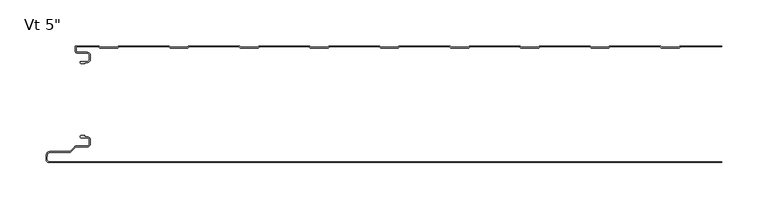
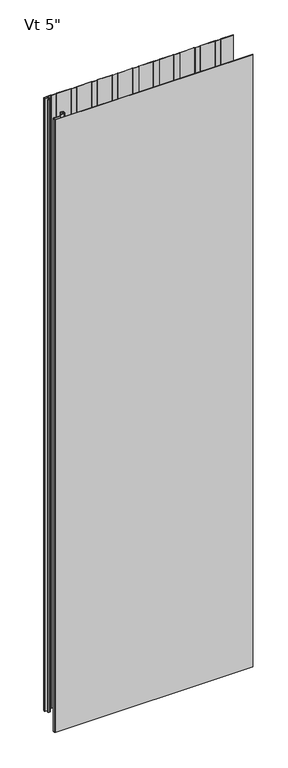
"""IFC4 building model written with IfcOpenShell, lengths in millimetres: plate geometry."""

from ifc_helpers import new_model, si_unit, point, frame, frame_2d, origin, origin_with_axes, place, context, project, spatial, polyline, circle_curve, trimmed, segment, composite_curve, outline, extrude, source, transform, mapped, element, save
from ifc_brep_helpers import plane_surface, cylinder_surface, revolved_surface, advanced_brep


def plate_cdec7c63(model_context):
    return source(origin(), model_context, "Body", "SolidModel", [
        advanced_brep(
        [(-346.968691, -17.0015202, 2400.0), (-347.9686883, -18.0015234, 2400.0), (-346.968691, -19.0015147, 2400.0), (-342.9684874, -19.0015147, 2400.0), (-342.9684874, -18.0015202, 2400.0), (-340.2762776, -18.0015202, 2400.0), (-336.9762819, -14.7015245, 2400.0), (-336.9762819, -10.3015333, 2400.0), (-340.2762774, -7.0015378, 2400.0), (-350.6962563, -7.0015378, 2400.0), (-352.4662505, -5.2315436, 2400.0), (-352.4662505, -0.9999959, 2400.0), (-327.9659738, -0.9999959, 2400.0), (-326.5803312, -2.200235, 2400.0), (-307.2051649, -2.200235, 2400.0), (-305.819532, -1.0000043, 2400.0), (-251.7661166, -1.0000043, 2400.0), (-250.3804836, -2.200235, 2400.0), (-231.0053173, -2.200235, 2400.0), (-229.6196844, -1.0000043, 2400.0), (-175.566269, -1.0000043, 2400.0), (-174.180636, -2.200235, 2400.0), (-154.8054697, -2.200235, 2400.0), (-153.4198368, -1.0000043, 2400.0), (-99.3664214, -1.0000043, 2400.0), (-97.9807884, -2.200235, 2400.0), (-78.6056221, -2.200235, 2400.0), (-77.2199892, -1.0000043, 2400.0), (-23.1665738, -1.0000043, 2400.0), (-21.7809408, -2.200235, 2400.0), (-2.4057745, -2.200235, 2400.0), (-1.0201416, -1.0000043, 2400.0), (53.0332738, -1.0000043, 2400.0), (54.4189068, -2.200235, 2400.0), (73.7940731, -2.200235, 2400.0), (75.179706, -1.0000043, 2400.0), (129.2331214, -1.0000043, 2400.0), (130.6187544, -2.200235, 2400.0), (149.9939207, -2.200235, 2400.0), (151.3795536, -1.0000043, 2400.0), (205.432969, -1.0000043, 2400.0), (206.818602, -2.200235, 2400.0), (226.1937683, -2.200235, 2400.0), (227.5794012, -1.0000043, 2400.0), (281.6328166, -1.0000043, 2400.0), (283.0184496, -2.200235, 2400.0), (302.3936159, -2.200235, 2400.0), (303.7792488, -1.0000043, 2400.0), (348.9999998, -1.0000043, 2400.0), (348.9999998, -4.3e-06, 2400.0), (303.9284, -4.3e-06, 2400.0), (303.0117831, -0.3417928, 2400.0), (302.0207355, -1.200235, 2400.0), (283.39133, -1.200235, 2400.0), (282.4002824, -0.3417928, 2400.0), (281.4836655, -4.3e-06, 2400.0), (227.7285524, -4.3e-06, 2400.0), (226.8119355, -0.3417928, 2400.0), (225.8208879, -1.200235, 2400.0), (207.1914824, -1.200235, 2400.0), (206.2004348, -0.3417928, 2400.0), (205.2838179, -4.3e-06, 2400.0), (151.5287048, -4.3e-06, 2400.0), (150.6120879, -0.3417928, 2400.0), (149.6210403, -1.200235, 2400.0), (130.9916348, -1.200235, 2400.0), (130.0005872, -0.3417928, 2400.0), (129.0839703, -4.3e-06, 2400.0), (75.3288572, -4.3e-06, 2400.0), (74.4122403, -0.3417928, 2400.0), (73.4211927, -1.200235, 2400.0), (54.7917872, -1.200235, 2400.0), (53.8007396, -0.3417928, 2400.0), (52.8841227, -4.3e-06, 2400.0), (-0.8709904, -4.3e-06, 2400.0), (-1.7876073, -0.3417928, 2400.0), (-2.7786549, -1.200235, 2400.0), (-21.4080604, -1.200235, 2400.0), (-22.399108, -0.3417928, 2400.0), (-23.3157249, -4.3e-06, 2400.0), (-77.070838, -4.3e-06, 2400.0), (-77.9874549, -0.3417928, 2400.0), (-78.9785025, -1.200235, 2400.0), (-97.607908, -1.200235, 2400.0), (-98.5989556, -0.3417928, 2400.0), (-99.5155725, -4.3e-06, 2400.0), (-153.2706856, -4.3e-06, 2400.0), (-154.1873025, -0.3417928, 2400.0), (-155.1783501, -1.200235, 2400.0), (-173.8077556, -1.200235, 2400.0), (-174.7988032, -0.3417928, 2400.0), (-175.7154201, -4.3e-06, 2400.0), (-229.4705332, -4.3e-06, 2400.0), (-230.3871501, -0.3417928, 2400.0), (-231.3781977, -1.200235, 2400.0), (-250.0076032, -1.200235, 2400.0), (-250.9986508, -0.3417928, 2400.0), (-251.9152677, -4.3e-06, 2400.0), (-305.6703808, -4.3e-06, 2400.0), (-306.5869977, -0.3417928, 2400.0), (-307.5780453, -1.200235, 2400.0), (-326.2074508, -1.200235, 2400.0), (-327.1984984, -0.3417928, 2400.0), (-328.1152067, -4.3e-06, 2400.0), (-352.0662543, 4.1e-06, 2400.0), (-353.4662505, -1.3999921, 2400.0), (-353.4662505, -5.2315436, 2400.0), (-350.6962563, -8.0015378, 2400.0), (-340.2762774, -8.0015378, 2400.0), (-337.9762819, -10.3015333, 2400.0), (-337.9762819, -14.7015245, 2400.0), (-340.2762776, -17.0015202, 2400.0), (-346.968691, -17.0015202, 0.0), (-340.2762776, -17.0015202, 0.0), (-337.9762819, -14.7015245, 0.0), (-337.9762819, -10.3015333, 0.0), (-340.2762774, -8.0015378, 0.0), (-350.6962563, -8.0015378, 0.0), (-353.4662505, -5.2315436, 0.0), (-353.4662505, -1.3999921, 0.0), (-352.0662543, 4.1e-06, 0.0), (-328.1151153, 4.1e-06, 0.0), (-327.1984984, -0.3417928, 0.0), (-326.2074508, -1.200235, 0.0), (-307.5780453, -1.200235, 0.0), (-306.5869977, -0.3417928, 0.0), (-305.6703808, -4.3e-06, 0.0), (-251.9152677, -4.3e-06, 0.0), (-250.9986508, -0.3417928, 0.0), (-250.0076032, -1.200235, 0.0), (-231.3781977, -1.200235, 0.0), (-230.3871501, -0.3417928, 0.0), (-229.4705332, -4.3e-06, 0.0), (-175.7154201, -4.3e-06, 0.0), (-174.7988032, -0.3417928, 0.0), (-173.8077556, -1.200235, 0.0), (-155.1783501, -1.200235, 0.0), (-154.1873025, -0.3417928, 0.0), (-153.2706856, -4.3e-06, 0.0), (-99.5155725, -4.3e-06, 0.0), (-98.5989556, -0.3417928, 0.0), (-97.607908, -1.200235, 0.0), (-78.9785025, -1.200235, 0.0), (-77.9874549, -0.3417928, 0.0), (-77.070838, -4.3e-06, 0.0), (-23.3157249, -4.3e-06, 0.0), (-22.399108, -0.3417928, 0.0), (-21.4080604, -1.200235, 0.0), (-2.7786549, -1.200235, 0.0), (-1.7876073, -0.3417928, 0.0), (-0.8709904, -4.3e-06, 0.0), (52.8841227, -4.3e-06, 0.0), (53.8007396, -0.3417928, 0.0), (54.7917872, -1.200235, 0.0), (73.4211927, -1.200235, 0.0), (74.4122403, -0.3417928, 0.0), (75.3288572, -4.3e-06, 0.0), (129.0839703, -4.3e-06, 0.0), (130.0005872, -0.3417928, 0.0), (130.9916348, -1.200235, 0.0), (149.6210403, -1.200235, 0.0), (150.6120879, -0.3417928, 0.0), (151.5287048, -4.3e-06, 0.0), (205.2838179, -4.3e-06, 0.0), (206.2004348, -0.3417928, 0.0), (207.1914824, -1.200235, 0.0), (225.8208879, -1.200235, 0.0), (226.8119355, -0.3417928, 0.0), (227.7285524, -4.3e-06, 0.0), (281.4836655, -4.3e-06, 0.0), (282.4002824, -0.3417928, 0.0), (283.39133, -1.200235, 0.0), (302.0207355, -1.200235, 0.0), (303.0117831, -0.3417928, 0.0), (303.9284, -4.3e-06, 0.0), (348.9999998, -4.3e-06, 0.0), (348.9999998, -1.0000043, 0.0), (303.7792488, -1.0000043, 0.0), (302.3936159, -2.200235, 0.0), (283.0184496, -2.200235, 0.0), (281.6328166, -1.0000043, 0.0), (227.5794012, -1.0000043, 0.0), (226.1937683, -2.200235, 0.0), (206.818602, -2.200235, 0.0), (205.432969, -1.0000043, 0.0), (151.3795536, -1.0000043, 0.0), (149.9939207, -2.200235, 0.0), (130.6187544, -2.200235, 0.0), (129.2331214, -1.0000043, 0.0), (75.179706, -1.0000043, 0.0), (73.7940731, -2.200235, 0.0), (54.4189068, -2.200235, 0.0), (53.0332738, -1.0000043, 0.0), (-1.0201416, -1.0000043, 0.0), (-2.4057745, -2.200235, 0.0), (-21.7809408, -2.200235, 0.0), (-23.1665738, -1.0000043, 0.0), (-77.2199892, -1.0000043, 0.0), (-78.6056221, -2.200235, 0.0), (-97.9807884, -2.200235, 0.0), (-99.3664214, -1.0000043, 0.0), (-153.4198368, -1.0000043, 0.0), (-154.8054697, -2.200235, 0.0), (-174.180636, -2.200235, 0.0), (-175.566269, -1.0000043, 0.0), (-229.6196844, -1.0000043, 0.0), (-231.0053173, -2.200235, 0.0), (-250.3804836, -2.200235, 0.0), (-251.7661166, -1.0000043, 0.0), (-305.819532, -1.0000043, 0.0), (-307.2051649, -2.200235, 0.0), (-326.5803312, -2.200235, 0.0), (-327.9659738, -0.9999959, 0.0), (-352.4662505, -0.9999959, 0.0), (-352.4662505, -5.2315436, 0.0), (-350.6962563, -7.0015378, 0.0), (-340.2762774, -7.0015378, 0.0), (-336.9762819, -10.3015333, 0.0), (-336.9762819, -14.7015245, 0.0), (-340.2762776, -18.0015202, 0.0), (-342.9684874, -18.0015202, 0.0), (-342.9684874, -19.0015147, 0.0), (-346.968691, -19.0015147, 0.0), (-347.9686882, -18.0015235, 0.0)],
        [
            (0, 1, circle_curve(frame((-346.968691, -18.0015175, 2400.0), z_axis=(0.0, 0.0, 1.0), x_axis=(1.0, 0.0, 0.0)), 0.9999973)),
            (1, 2, circle_curve(frame((-346.968691, -18.0015175, 2400.0), z_axis=(0.0, 0.0, 1.0), x_axis=(1.0, 0.0, 0.0)), 0.9999972)),
            (2, 3),
            (3, 4),
            (4, 5),
            (5, 6, circle_curve(frame((-340.2762776, -14.7015245, 2400.0), z_axis=(0.0, 0.0, 1.0), x_axis=(1.0, 0.0, 0.0)), 3.2999957)),
            (6, 7),
            (7, 8, circle_curve(frame((-340.2762774, -10.3015333, 2400.0), z_axis=(0.0, 0.0, 1.0), x_axis=(1.0, 0.0, 0.0)), 3.2999955)),
            (8, 9),
            (9, 10, circle_curve(frame((-350.6962563, -5.2315436, 2400.0), z_axis=(0.0, 0.0, -1.0), x_axis=(1.0, 0.0, 0.0)), 1.7699942)),
            (10, 11),
            (11, 12),
            (12, 13),
            (13, 14),
            (14, 15),
            (15, 16),
            (16, 17),
            (17, 18),
            (18, 19),
            (19, 20),
            (20, 21),
            (21, 22),
            (22, 23),
            (23, 24),
            (24, 25),
            (25, 26),
            (26, 27),
            (27, 28),
            (28, 29),
            (29, 30),
            (30, 31),
            (31, 32),
            (32, 33),
            (33, 34),
            (34, 35),
            (35, 36),
            (36, 37),
            (37, 38),
            (38, 39),
            (39, 40),
            (40, 41),
            (41, 42),
            (42, 43),
            (43, 44),
            (44, 45),
            (45, 46),
            (46, 47),
            (47, 48),
            (48, 49),
            (49, 50),
            (50, 51, circle_curve(frame((303.9284, -1.4000015, 2400.0), z_axis=(0.0, 0.0, 1.0), x_axis=(1.0, 0.0, 0.0)), 1.3999972)),
            (51, 52),
            (52, 53),
            (53, 54),
            (54, 55, circle_curve(frame((281.4836655, -1.4000015, 2400.0), z_axis=(0.0, 0.0, 1.0), x_axis=(1.0, 0.0, 0.0)), 1.3999972)),
            (55, 56),
            (56, 57, circle_curve(frame((227.7285524, -1.4000015, 2400.0), z_axis=(0.0, 0.0, 1.0), x_axis=(1.0, 0.0, 0.0)), 1.3999972)),
            (57, 58),
            (58, 59),
            (59, 60),
            (60, 61, circle_curve(frame((205.2838179, -1.4000015, 2400.0), z_axis=(0.0, 0.0, 1.0), x_axis=(1.0, 0.0, 0.0)), 1.3999972)),
            (61, 62),
            (62, 63, circle_curve(frame((151.5287048, -1.4000015, 2400.0), z_axis=(0.0, 0.0, 1.0), x_axis=(1.0, 0.0, 0.0)), 1.3999972)),
            (63, 64),
            (64, 65),
            (65, 66),
            (66, 67, circle_curve(frame((129.0839703, -1.4000015, 2400.0), z_axis=(0.0, 0.0, 1.0), x_axis=(1.0, 0.0, 0.0)), 1.3999972)),
            (67, 68),
            (68, 69, circle_curve(frame((75.3288572, -1.4000015, 2400.0), z_axis=(0.0, 0.0, 1.0), x_axis=(1.0, 0.0, 0.0)), 1.3999972)),
            (69, 70),
            (70, 71),
            (71, 72),
            (72, 73, circle_curve(frame((52.8841227, -1.4000015, 2400.0), z_axis=(0.0, 0.0, 1.0), x_axis=(1.0, 0.0, 0.0)), 1.3999972)),
            (73, 74),
            (74, 75, circle_curve(frame((-0.8709904, -1.4000015, 2400.0), z_axis=(0.0, 0.0, 1.0), x_axis=(1.0, 0.0, 0.0)), 1.3999972)),
            (75, 76),
            (76, 77),
            (77, 78),
            (78, 79, circle_curve(frame((-23.3157249, -1.4000015, 2400.0), z_axis=(0.0, 0.0, 1.0), x_axis=(1.0, 0.0, 0.0)), 1.3999972)),
            (79, 80),
            (80, 81, circle_curve(frame((-77.070838, -1.4000015, 2400.0), z_axis=(0.0, 0.0, 1.0), x_axis=(1.0, 0.0, 0.0)), 1.3999972)),
            (81, 82),
            (82, 83),
            (83, 84),
            (84, 85, circle_curve(frame((-99.5155725, -1.4000015, 2400.0), z_axis=(0.0, 0.0, 1.0), x_axis=(1.0, 0.0, 0.0)), 1.3999972)),
            (85, 86),
            (86, 87, circle_curve(frame((-153.2706856, -1.4000015, 2400.0), z_axis=(0.0, 0.0, 1.0), x_axis=(1.0, 0.0, 0.0)), 1.3999972)),
            (87, 88),
            (88, 89),
            (89, 90),
            (90, 91, circle_curve(frame((-175.7154201, -1.4000015, 2400.0), z_axis=(0.0, 0.0, 1.0), x_axis=(1.0, 0.0, 0.0)), 1.3999972)),
            (91, 92),
            (92, 93, circle_curve(frame((-229.4705332, -1.4000015, 2400.0), z_axis=(0.0, 0.0, 1.0), x_axis=(1.0, 0.0, 0.0)), 1.3999972)),
            (93, 94),
            (94, 95),
            (95, 96),
            (96, 97, circle_curve(frame((-251.9152677, -1.4000015, 2400.0), z_axis=(0.0, 0.0, 1.0), x_axis=(1.0, 0.0, 0.0)), 1.3999972)),
            (97, 98),
            (98, 99, circle_curve(frame((-305.6703808, -1.4000015, 2400.0), z_axis=(0.0, 0.0, 1.0), x_axis=(1.0, 0.0, 0.0)), 1.3999972)),
            (99, 100),
            (100, 101),
            (101, 102),
            (102, 103, circle_curve(frame((-328.1151153, -1.4000015, 2400.0), z_axis=(0.0, 0.0, 1.0), x_axis=(1.0, 0.0, 0.0)), 1.3999972)),
            (103, 104),
            (104, 105, circle_curve(frame((-352.0662543, -1.3999921, 2400.0), z_axis=(0.0, 0.0, 1.0), x_axis=(1.0, 0.0, 0.0)), 1.3999962)),
            (105, 106),
            (106, 107, circle_curve(frame((-350.6962563, -5.2315436, 2400.0), z_axis=(0.0, 0.0, 1.0), x_axis=(1.0, 0.0, 0.0)), 2.7699942)),
            (107, 108),
            (108, 109, circle_curve(frame((-340.2762774, -10.3015333, 2400.0), z_axis=(0.0, 0.0, -1.0), x_axis=(1.0, 0.0, 0.0)), 2.2999955)),
            (109, 110),
            (110, 111, circle_curve(frame((-340.2762776, -14.7015245, 2400.0), z_axis=(0.0, 0.0, -1.0), x_axis=(1.0, 0.0, 0.0)), 2.2999957)),
            (111, 0),
            (112, 113),
            (113, 114, circle_curve(frame((-340.2762776, -14.7015245, 0.0), z_axis=(0.0, 0.0, 1.0), x_axis=(1.0, 0.0, 0.0)), 2.2999957)),
            (114, 115),
            (115, 116, circle_curve(frame((-340.2762774, -10.3015333, 0.0), z_axis=(0.0, 0.0, 1.0), x_axis=(1.0, 0.0, 0.0)), 2.2999955)),
            (116, 117),
            (117, 118, circle_curve(frame((-350.6962563, -5.2315436, 0.0), z_axis=(0.0, 0.0, -1.0), x_axis=(1.0, 0.0, 0.0)), 2.7699942)),
            (118, 119),
            (119, 120, circle_curve(frame((-352.0662543, -1.3999921, 0.0), z_axis=(0.0, 0.0, -1.0), x_axis=(1.0, 0.0, 0.0)), 1.3999962)),
            (120, 121),
            (121, 122, circle_curve(frame((-328.1151153, -1.4000015, 0.0), z_axis=(0.0, 0.0, -1.0), x_axis=(1.0, 0.0, 0.0)), 1.3999972)),
            (122, 123),
            (123, 124),
            (124, 125),
            (125, 126, circle_curve(frame((-305.6703808, -1.4000015, 0.0), z_axis=(0.0, 0.0, -1.0), x_axis=(1.0, 0.0, 0.0)), 1.3999972)),
            (126, 127),
            (127, 128, circle_curve(frame((-251.9152677, -1.4000015, 0.0), z_axis=(0.0, 0.0, -1.0), x_axis=(1.0, 0.0, 0.0)), 1.3999972)),
            (128, 129),
            (129, 130),
            (130, 131),
            (131, 132, circle_curve(frame((-229.4705332, -1.4000015, 0.0), z_axis=(0.0, 0.0, -1.0), x_axis=(1.0, 0.0, 0.0)), 1.3999972)),
            (132, 133),
            (133, 134, circle_curve(frame((-175.7154201, -1.4000015, 0.0), z_axis=(0.0, 0.0, -1.0), x_axis=(1.0, 0.0, 0.0)), 1.3999972)),
            (134, 135),
            (135, 136),
            (136, 137),
            (137, 138, circle_curve(frame((-153.2706856, -1.4000015, 0.0), z_axis=(0.0, 0.0, -1.0), x_axis=(1.0, 0.0, 0.0)), 1.3999972)),
            (138, 139),
            (139, 140, circle_curve(frame((-99.5155725, -1.4000015, 0.0), z_axis=(0.0, 0.0, -1.0), x_axis=(1.0, 0.0, 0.0)), 1.3999972)),
            (140, 141),
            (141, 142),
            (142, 143),
            (143, 144, circle_curve(frame((-77.070838, -1.4000015, 0.0), z_axis=(0.0, 0.0, -1.0), x_axis=(1.0, 0.0, 0.0)), 1.3999972)),
            (144, 145),
            (145, 146, circle_curve(frame((-23.3157249, -1.4000015, 0.0), z_axis=(0.0, 0.0, -1.0), x_axis=(1.0, 0.0, 0.0)), 1.3999972)),
            (146, 147),
            (147, 148),
            (148, 149),
            (149, 150, circle_curve(frame((-0.8709904, -1.4000015, 0.0), z_axis=(0.0, 0.0, -1.0), x_axis=(1.0, 0.0, 0.0)), 1.3999972)),
            (150, 151),
            (151, 152, circle_curve(frame((52.8841227, -1.4000015, 0.0), z_axis=(0.0, 0.0, -1.0), x_axis=(1.0, 0.0, 0.0)), 1.3999972)),
            (152, 153),
            (153, 154),
            (154, 155),
            (155, 156, circle_curve(frame((75.3288572, -1.4000015, 0.0), z_axis=(0.0, 0.0, -1.0), x_axis=(1.0, 0.0, 0.0)), 1.3999972)),
            (156, 157),
            (157, 158, circle_curve(frame((129.0839703, -1.4000015, 0.0), z_axis=(0.0, 0.0, -1.0), x_axis=(1.0, 0.0, 0.0)), 1.3999972)),
            (158, 159),
            (159, 160),
            (160, 161),
            (161, 162, circle_curve(frame((151.5287048, -1.4000015, 0.0), z_axis=(0.0, 0.0, -1.0), x_axis=(1.0, 0.0, 0.0)), 1.3999972)),
            (162, 163),
            (163, 164, circle_curve(frame((205.2838179, -1.4000015, 0.0), z_axis=(0.0, 0.0, -1.0), x_axis=(1.0, 0.0, 0.0)), 1.3999972)),
            (164, 165),
            (165, 166),
            (166, 167),
            (167, 168, circle_curve(frame((227.7285524, -1.4000015, 0.0), z_axis=(0.0, 0.0, -1.0), x_axis=(1.0, 0.0, 0.0)), 1.3999972)),
            (168, 169),
            (169, 170, circle_curve(frame((281.4836655, -1.4000015, 0.0), z_axis=(0.0, 0.0, -1.0), x_axis=(1.0, 0.0, 0.0)), 1.3999972)),
            (170, 171),
            (171, 172),
            (172, 173),
            (173, 174, circle_curve(frame((303.9284, -1.4000015, 0.0), z_axis=(0.0, 0.0, -1.0), x_axis=(1.0, 0.0, 0.0)), 1.3999972)),
            (174, 175),
            (175, 176),
            (176, 177),
            (177, 178),
            (178, 179),
            (179, 180),
            (180, 181),
            (181, 182),
            (182, 183),
            (183, 184),
            (184, 185),
            (185, 186),
            (186, 187),
            (187, 188),
            (188, 189),
            (189, 190),
            (190, 191),
            (191, 192),
            (192, 193),
            (193, 194),
            (194, 195),
            (195, 196),
            (196, 197),
            (197, 198),
            (198, 199),
            (199, 200),
            (200, 201),
            (201, 202),
            (202, 203),
            (203, 204),
            (204, 205),
            (205, 206),
            (206, 207),
            (207, 208),
            (208, 209),
            (209, 210),
            (210, 211),
            (211, 212),
            (212, 213),
            (213, 214),
            (214, 215, circle_curve(frame((-350.6962563, -5.2315436, 0.0), z_axis=(0.0, 0.0, 1.0), x_axis=(1.0, 0.0, 0.0)), 1.7699942)),
            (215, 216),
            (216, 217, circle_curve(frame((-340.2762774, -10.3015333, 0.0), z_axis=(0.0, 0.0, -1.0), x_axis=(1.0, 0.0, 0.0)), 3.2999955)),
            (217, 218),
            (218, 219, circle_curve(frame((-340.2762776, -14.7015245, 0.0), z_axis=(0.0, 0.0, -1.0), x_axis=(1.0, 0.0, 0.0)), 3.2999957)),
            (219, 220),
            (220, 221),
            (221, 222),
            (222, 223, circle_curve(frame((-346.968691, -18.0015175, 0.0), z_axis=(0.0, 0.0, -1.0), x_axis=(1.0, 0.0, 0.0)), 0.9999972)),
            (223, 112, circle_curve(frame((-346.968691, -18.0015175, 0.0), z_axis=(0.0, 0.0, -1.0), x_axis=(1.0, 0.0, 0.0)), 0.9999973)),
            (48, 176),
            (175, 49),
            (111, 113),
            (112, 0),
            (110, 114),
            (109, 115),
            (108, 116),
            (107, 117),
            (106, 118),
            (105, 119),
            (104, 120),
            (103, 121),
            (102, 122),
            (101, 123),
            (100, 124),
            (99, 125),
            (98, 126),
            (97, 127),
            (96, 128),
            (95, 129),
            (94, 130),
            (93, 131),
            (92, 132),
            (91, 133),
            (90, 134),
            (89, 135),
            (88, 136),
            (87, 137),
            (86, 138),
            (85, 139),
            (84, 140),
            (83, 141),
            (82, 142),
            (81, 143),
            (80, 144),
            (79, 145),
            (78, 146),
            (77, 147),
            (76, 148),
            (75, 149),
            (74, 150),
            (73, 151),
            (72, 152),
            (71, 153),
            (70, 154),
            (69, 155),
            (68, 156),
            (67, 157),
            (66, 158),
            (65, 159),
            (64, 160),
            (63, 161),
            (62, 162),
            (38, 186),
            (185, 39),
            (37, 187),
            (36, 188),
            (35, 189),
            (34, 190),
            (33, 191),
            (32, 192),
            (31, 193),
            (30, 194),
            (29, 195),
            (28, 196),
            (27, 197),
            (26, 198),
            (25, 199),
            (24, 200),
            (23, 201),
            (22, 202),
            (21, 203),
            (20, 204),
            (19, 205),
            (18, 206),
            (17, 207),
            (16, 208),
            (15, 209),
            (14, 210),
            (13, 211),
            (12, 212),
            (11, 213),
            (10, 214),
            (9, 215),
            (8, 216),
            (7, 217),
            (6, 218),
            (5, 219),
            (4, 220),
            (3, 221),
            (2, 222),
            (1, 223),
            (55, 169),
            (168, 56),
            (54, 170),
            (53, 171),
            (52, 172),
            (51, 173),
            (50, 174),
            (43, 181),
            (180, 44),
            (42, 182),
            (41, 183),
            (40, 184),
            (61, 163),
            (60, 164),
            (59, 165),
            (58, 166),
            (57, 167),
            (47, 177),
            (46, 178),
            (45, 179),
        ],
        [
            plane_surface(frame((32.0000002, -4.3e-06, 2400.0), z_axis=(0.0, 0.0, 1.0), x_axis=(0.0, 1.0, 0.0))),
            plane_surface(frame((32.0000002, -4.3e-06, 0.0), z_axis=(0.0, 0.0, -1.0), x_axis=(0.0, 1.0, 0.0))),
            plane_surface(frame((348.9999998, -137.0000043, 2400.0), z_axis=(1.0, 0.0, 0.0), x_axis=(0.0, 0.0, -1.0))),
            plane_surface(frame((-346.968691, -17.0015202, 2400.0), z_axis=(0.0, 1.0, 0.0), x_axis=(0.0, 0.0, -1.0))),
            revolved_surface(polyline([(-337.9762819, -14.7015245, 0.0), (-337.9762819, -14.7015245, 2400.0)]), (-340.2762776, -14.7015245, 2400.0), (0.0, 0.0, -1.0)),
            plane_surface(frame((-337.9762819, -14.7015245, 2400.0), z_axis=(-1.0, 0.0, 0.0), x_axis=(0.0, 0.0, -1.0))),
            revolved_surface(polyline([(-337.9762819, -10.3015333, 0.0), (-337.9762819, -10.3015333, 2400.0)]), (-340.2762774, -10.3015333, 2400.0), (0.0, 0.0, -1.0)),
            plane_surface(frame((-340.2762774, -8.0015378, 2400.0), z_axis=(0.0, -1.0, 0.0), x_axis=(0.0, 0.0, -1.0))),
            cylinder_surface(frame((-350.6962563, -5.2315436, 2400.0), z_axis=(0.0, 0.0, 1.0), x_axis=(1.0, 0.0, 0.0)), 2.7699942),
            plane_surface(frame((-353.4662505, -5.2315436, 2400.0), z_axis=(-1.0, 0.0, 0.0), x_axis=(0.0, 0.0, -1.0))),
            cylinder_surface(frame((-352.0662543, -1.3999921, 2400.0), z_axis=(0.0, 0.0, 1.0), x_axis=(1.0, 0.0, 0.0)), 1.3999962),
            plane_surface(frame((-352.0662543, 4.1e-06, 2400.0), z_axis=(0.0, 1.0, 0.0), x_axis=(0.0, 0.0, -1.0))),
            cylinder_surface(frame((-328.1151153, -1.4000015, 2400.0), z_axis=(0.0, 0.0, 1.0), x_axis=(1.0, 0.0, 0.0)), 1.3999972),
            plane_surface(frame((-327.1984984, -0.3417928, 2400.0), z_axis=(0.6547276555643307, 0.7558648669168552, 0.0), x_axis=(0.0, 0.0, -1.0))),
            plane_surface(frame((-316.8927481, -1.200235, 2400.0), z_axis=(0.0, 1.0, 0.0), x_axis=(0.0, 0.0, -1.0))),
            plane_surface(frame((-307.5780453, -1.200235, 2400.0), z_axis=(-0.6547276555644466, 0.7558648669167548, 0.0), x_axis=(0.0, 0.0, -1.0))),
            cylinder_surface(frame((-305.6703808, -1.4000015, 2400.0), z_axis=(0.0, 0.0, 1.0), x_axis=(1.0, 0.0, 0.0)), 1.3999972),
            plane_surface(frame((-305.6703808, -4.3e-06, 2400.0), z_axis=(0.0, 1.0, 0.0), x_axis=(0.0, 0.0, -1.0))),
            cylinder_surface(frame((-251.9152677, -1.4000015, 2400.0), z_axis=(0.0, 0.0, 1.0), x_axis=(1.0, 0.0, 0.0)), 1.3999972),
            plane_surface(frame((-250.9986508, -0.3417928, 2400.0), z_axis=(0.6547276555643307, 0.7558648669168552, 0.0), x_axis=(0.0, 0.0, -1.0))),
            plane_surface(frame((-240.6929005, -1.200235, 2400.0), z_axis=(0.0, 1.0, 0.0), x_axis=(0.0, 0.0, -1.0))),
            plane_surface(frame((-231.3781977, -1.200235, 2400.0), z_axis=(-0.6547276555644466, 0.7558648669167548, 0.0), x_axis=(0.0, 0.0, -1.0))),
            cylinder_surface(frame((-229.4705332, -1.4000015, 2400.0), z_axis=(0.0, 0.0, 1.0), x_axis=(1.0, 0.0, 0.0)), 1.3999972),
            plane_surface(frame((-229.4705332, -4.3e-06, 2400.0), z_axis=(0.0, 1.0, 0.0), x_axis=(0.0, 0.0, -1.0))),
            cylinder_surface(frame((-175.7154201, -1.4000015, 2400.0), z_axis=(0.0, 0.0, 1.0), x_axis=(1.0, 0.0, 0.0)), 1.3999972),
            plane_surface(frame((-174.7988032, -0.3417928, 2400.0), z_axis=(0.6547276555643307, 0.7558648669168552, 0.0), x_axis=(0.0, 0.0, -1.0))),
            plane_surface(frame((-164.4930529, -1.200235, 2400.0), z_axis=(0.0, 1.0, 0.0), x_axis=(0.0, 0.0, -1.0))),
            plane_surface(frame((-155.1783501, -1.200235, 2400.0), z_axis=(-0.6547276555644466, 0.7558648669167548, 0.0), x_axis=(0.0, 0.0, -1.0))),
            cylinder_surface(frame((-153.2706856, -1.4000015, 2400.0), z_axis=(0.0, 0.0, 1.0), x_axis=(1.0, 0.0, 0.0)), 1.3999972),
            plane_surface(frame((-153.2706856, -4.3e-06, 2400.0), z_axis=(0.0, 1.0, 0.0), x_axis=(0.0, 0.0, -1.0))),
            cylinder_surface(frame((-99.5155725, -1.4000015, 2400.0), z_axis=(0.0, 0.0, 1.0), x_axis=(1.0, 0.0, 0.0)), 1.3999972),
            plane_surface(frame((-98.5989556, -0.3417928, 2400.0), z_axis=(0.6547276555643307, 0.7558648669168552, 0.0), x_axis=(0.0, 0.0, -1.0))),
            plane_surface(frame((-88.2932053, -1.200235, 2400.0), z_axis=(0.0, 1.0, 0.0), x_axis=(0.0, 0.0, -1.0))),
            plane_surface(frame((-78.9785025, -1.200235, 2400.0), z_axis=(-0.6547276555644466, 0.7558648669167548, 0.0), x_axis=(0.0, 0.0, -1.0))),
            cylinder_surface(frame((-77.070838, -1.4000015, 2400.0), z_axis=(0.0, 0.0, 1.0), x_axis=(1.0, 0.0, 0.0)), 1.3999972),
            plane_surface(frame((-77.070838, -4.3e-06, 2400.0), z_axis=(0.0, 1.0, 0.0), x_axis=(0.0, 0.0, -1.0))),
            cylinder_surface(frame((-23.3157249, -1.4000015, 2400.0), z_axis=(0.0, 0.0, 1.0), x_axis=(1.0, 0.0, 0.0)), 1.3999972),
            plane_surface(frame((-22.399108, -0.3417928, 2400.0), z_axis=(0.6547276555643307, 0.7558648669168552, 0.0), x_axis=(0.0, 0.0, -1.0))),
            plane_surface(frame((-12.0933577, -1.200235, 2400.0), z_axis=(0.0, 1.0, 0.0), x_axis=(0.0, 0.0, -1.0))),
            plane_surface(frame((-2.7786549, -1.200235, 2400.0), z_axis=(-0.6547276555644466, 0.7558648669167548, 0.0), x_axis=(0.0, 0.0, -1.0))),
            cylinder_surface(frame((-0.8709904, -1.4000015, 2400.0), z_axis=(0.0, 0.0, 1.0), x_axis=(1.0, 0.0, 0.0)), 1.3999972),
            plane_surface(frame((-0.8709904, -4.3e-06, 2400.0), z_axis=(0.0, 1.0, 0.0), x_axis=(0.0, 0.0, -1.0))),
            cylinder_surface(frame((52.8841227, -1.4000015, 2400.0), z_axis=(0.0, 0.0, 1.0), x_axis=(1.0, 0.0, 0.0)), 1.3999972),
            plane_surface(frame((53.8007396, -0.3417928, 2400.0), z_axis=(0.6547276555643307, 0.7558648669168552, 0.0), x_axis=(0.0, 0.0, -1.0))),
            plane_surface(frame((64.1064899, -1.200235, 2400.0), z_axis=(0.0, 1.0, 0.0), x_axis=(0.0, 0.0, -1.0))),
            plane_surface(frame((73.4211927, -1.200235, 2400.0), z_axis=(-0.6547276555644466, 0.7558648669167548, 0.0), x_axis=(0.0, 0.0, -1.0))),
            cylinder_surface(frame((75.3288572, -1.4000015, 2400.0), z_axis=(0.0, 0.0, 1.0), x_axis=(1.0, 0.0, 0.0)), 1.3999972),
            plane_surface(frame((75.3288572, -4.3e-06, 2400.0), z_axis=(0.0, 1.0, 0.0), x_axis=(0.0, 0.0, -1.0))),
            cylinder_surface(frame((129.0839703, -1.4000015, 2400.0), z_axis=(0.0, 0.0, 1.0), x_axis=(1.0, 0.0, 0.0)), 1.3999972),
            plane_surface(frame((130.0005872, -0.3417928, 2400.0), z_axis=(0.6547276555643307, 0.7558648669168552, 0.0), x_axis=(0.0, 0.0, -1.0))),
            plane_surface(frame((140.3063375, -1.200235, 2400.0), z_axis=(0.0, 1.0, 0.0), x_axis=(0.0, 0.0, -1.0))),
            plane_surface(frame((149.6210403, -1.200235, 2400.0), z_axis=(-0.6547276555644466, 0.7558648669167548, 0.0), x_axis=(0.0, 0.0, -1.0))),
            cylinder_surface(frame((151.5287048, -1.4000015, 2400.0), z_axis=(0.0, 0.0, 1.0), x_axis=(1.0, 0.0, 0.0)), 1.3999972),
            plane_surface(frame((151.3795536, -1.0000043, 2400.0), z_axis=(0.6547276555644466, -0.7558648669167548, 0.0), x_axis=(0.0, 0.0, -1.0))),
            plane_surface(frame((149.9939207, -2.200235, 2400.0), z_axis=(0.0, -1.0, 0.0), x_axis=(0.0, 0.0, -1.0))),
            plane_surface(frame((130.6187544, -2.200235, 2400.0), z_axis=(-0.6547276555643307, -0.7558648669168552, 0.0), x_axis=(0.0, 0.0, -1.0))),
            plane_surface(frame((129.2331214, -1.0000043, 2400.0), z_axis=(0.0, -1.0, 0.0), x_axis=(0.0, 0.0, -1.0))),
            plane_surface(frame((75.179706, -1.0000043, 2400.0), z_axis=(0.6547276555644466, -0.7558648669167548, 0.0), x_axis=(0.0, 0.0, -1.0))),
            plane_surface(frame((73.7940731, -2.200235, 2400.0), z_axis=(0.0, -1.0, 0.0), x_axis=(0.0, 0.0, -1.0))),
            plane_surface(frame((54.4189068, -2.200235, 2400.0), z_axis=(-0.6547276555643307, -0.7558648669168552, 0.0), x_axis=(0.0, 0.0, -1.0))),
            plane_surface(frame((53.0332738, -1.0000043, 2400.0), z_axis=(0.0, -1.0, 0.0), x_axis=(0.0, 0.0, -1.0))),
            plane_surface(frame((-1.0201416, -1.0000043, 2400.0), z_axis=(0.6547276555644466, -0.7558648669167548, 0.0), x_axis=(0.0, 0.0, -1.0))),
            plane_surface(frame((-2.4057745, -2.200235, 2400.0), z_axis=(0.0, -1.0, 0.0), x_axis=(0.0, 0.0, -1.0))),
            plane_surface(frame((-21.7809408, -2.200235, 2400.0), z_axis=(-0.6547276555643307, -0.7558648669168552, 0.0), x_axis=(0.0, 0.0, -1.0))),
            plane_surface(frame((-23.1665738, -1.0000043, 2400.0), z_axis=(0.0, -1.0, 0.0), x_axis=(0.0, 0.0, -1.0))),
            plane_surface(frame((-77.2199892, -1.0000043, 2400.0), z_axis=(0.6547276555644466, -0.7558648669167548, 0.0), x_axis=(0.0, 0.0, -1.0))),
            plane_surface(frame((-78.6056221, -2.200235, 2400.0), z_axis=(0.0, -1.0, 0.0), x_axis=(0.0, 0.0, -1.0))),
            plane_surface(frame((-97.9807884, -2.200235, 2400.0), z_axis=(-0.6547276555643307, -0.7558648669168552, 0.0), x_axis=(0.0, 0.0, -1.0))),
            plane_surface(frame((-99.3664214, -1.0000043, 2400.0), z_axis=(0.0, -1.0, 0.0), x_axis=(0.0, 0.0, -1.0))),
            plane_surface(frame((-153.4198368, -1.0000043, 2400.0), z_axis=(0.6547276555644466, -0.7558648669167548, 0.0), x_axis=(0.0, 0.0, -1.0))),
            plane_surface(frame((-154.8054697, -2.200235, 2400.0), z_axis=(0.0, -1.0, 0.0), x_axis=(0.0, 0.0, -1.0))),
            plane_surface(frame((-174.180636, -2.200235, 2400.0), z_axis=(-0.6547276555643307, -0.7558648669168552, 0.0), x_axis=(0.0, 0.0, -1.0))),
            plane_surface(frame((-175.566269, -1.0000043, 2400.0), z_axis=(0.0, -1.0, 0.0), x_axis=(0.0, 0.0, -1.0))),
            plane_surface(frame((-229.6196844, -1.0000043, 2400.0), z_axis=(0.6547276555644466, -0.7558648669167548, 0.0), x_axis=(0.0, 0.0, -1.0))),
            plane_surface(frame((-231.0053173, -2.200235, 2400.0), z_axis=(0.0, -1.0, 0.0), x_axis=(0.0, 0.0, -1.0))),
            plane_surface(frame((-250.3804836, -2.200235, 2400.0), z_axis=(-0.6547276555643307, -0.7558648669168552, 0.0), x_axis=(0.0, 0.0, -1.0))),
            plane_surface(frame((-251.7661166, -1.0000043, 2400.0), z_axis=(0.0, -1.0, 0.0), x_axis=(0.0, 0.0, -1.0))),
            plane_surface(frame((-305.819532, -1.0000043, 2400.0), z_axis=(0.6547276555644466, -0.7558648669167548, 0.0), x_axis=(0.0, 0.0, -1.0))),
            plane_surface(frame((-307.2051649, -2.200235, 2400.0), z_axis=(0.0, -1.0, 0.0), x_axis=(0.0, 0.0, -1.0))),
            plane_surface(frame((-326.5803312, -2.200235, 2400.0), z_axis=(-0.6547276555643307, -0.7558648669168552, 0.0), x_axis=(0.0, 0.0, -1.0))),
            plane_surface(frame((-327.9659738, -0.9999959, 2400.0), z_axis=(0.0, -1.0, 0.0), x_axis=(0.0, 0.0, -1.0))),
            plane_surface(frame((-352.4662505, -0.9999959, 2400.0), z_axis=(1.0, 0.0, 0.0), x_axis=(0.0, 0.0, -1.0))),
            revolved_surface(polyline([(-348.92626210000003, -5.2315436, 0.0), (-348.92626210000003, -5.2315436, 2400.0)]), (-350.6962563, -5.2315436, 2400.0), (0.0, 0.0, -1.0)),
            plane_surface(frame((-350.6962563, -7.0015378, 2400.0), z_axis=(0.0, 1.0, 0.0), x_axis=(0.0, 0.0, -1.0))),
            cylinder_surface(frame((-340.2762774, -10.3015333, 2400.0), z_axis=(0.0, 0.0, 1.0), x_axis=(1.0, 0.0, 0.0)), 3.2999955),
            plane_surface(frame((-336.9762819, -10.3015333, 2400.0), z_axis=(1.0, 0.0, 0.0), x_axis=(0.0, 0.0, -1.0))),
            cylinder_surface(frame((-340.2762776, -14.7015245, 2400.0), z_axis=(0.0, 0.0, 1.0), x_axis=(1.0, 0.0, 0.0)), 3.2999957),
            plane_surface(frame((-340.2762776, -18.0015202, 2400.0), z_axis=(0.0, -1.0, 0.0), x_axis=(0.0, 0.0, -1.0))),
            plane_surface(frame((-342.9684874, -18.0015202, 2400.0), z_axis=(1.0, 0.0, 0.0), x_axis=(0.0, 0.0, -1.0))),
            plane_surface(frame((-342.9684874, -19.0015147, 2400.0), z_axis=(0.0, -1.0, 0.0), x_axis=(0.0, 0.0, -1.0))),
            cylinder_surface(frame((-346.968691, -18.0015175, 2400.0), z_axis=(0.0, 0.0, 1.0), x_axis=(1.0, 0.0, 0.0)), 0.9999972),
            cylinder_surface(frame((-346.968691, -18.0015175, 2400.0), z_axis=(0.0, 0.0, 1.0), x_axis=(1.0, 0.0, 0.0)), 0.9999973),
            plane_surface(frame((227.7285524, -4.3e-06, 2400.0), z_axis=(0.0, 1.0, 0.0), x_axis=(0.0, 0.0, -1.0))),
            cylinder_surface(frame((281.4836655, -1.4000015, 2400.0), z_axis=(0.0, 0.0, 1.0), x_axis=(1.0, 0.0, 0.0)), 1.3999972),
            plane_surface(frame((282.4002824, -0.3417928, 2400.0), z_axis=(0.6547276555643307, 0.7558648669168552, 0.0), x_axis=(0.0, 0.0, -1.0))),
            plane_surface(frame((292.7060327, -1.200235, 2400.0), z_axis=(0.0, 1.0, 0.0), x_axis=(0.0, 0.0, -1.0))),
            plane_surface(frame((302.0207355, -1.200235, 2400.0), z_axis=(-0.6547276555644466, 0.7558648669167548, 0.0), x_axis=(0.0, 0.0, -1.0))),
            cylinder_surface(frame((303.9284, -1.4000015, 2400.0), z_axis=(0.0, 0.0, 1.0), x_axis=(1.0, 0.0, 0.0)), 1.3999972),
            plane_surface(frame((303.9284, -4.3e-06, 2400.0), z_axis=(0.0, 1.0, 0.0), x_axis=(0.0, 0.0, -1.0))),
            plane_surface(frame((281.6328166, -1.0000043, 2400.0), z_axis=(0.0, -1.0, 0.0), x_axis=(0.0, 0.0, -1.0))),
            plane_surface(frame((227.5794012, -1.0000043, 2400.0), z_axis=(0.6547276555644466, -0.7558648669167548, 0.0), x_axis=(0.0, 0.0, -1.0))),
            plane_surface(frame((226.1937683, -2.200235, 2400.0), z_axis=(0.0, -1.0, 0.0), x_axis=(0.0, 0.0, -1.0))),
            plane_surface(frame((206.818602, -2.200235, 2400.0), z_axis=(-0.6547276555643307, -0.7558648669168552, 0.0), x_axis=(0.0, 0.0, -1.0))),
            plane_surface(frame((205.432969, -1.0000043, 2400.0), z_axis=(0.0, -1.0, 0.0), x_axis=(0.0, 0.0, -1.0))),
            plane_surface(frame((151.5287048, -4.3e-06, 2400.0), z_axis=(0.0, 1.0, 0.0), x_axis=(0.0, 0.0, -1.0))),
            cylinder_surface(frame((205.2838179, -1.4000015, 2400.0), z_axis=(0.0, 0.0, 1.0), x_axis=(1.0, 0.0, 0.0)), 1.3999972),
            plane_surface(frame((206.2004348, -0.3417928, 2400.0), z_axis=(0.6547276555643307, 0.7558648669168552, 0.0), x_axis=(0.0, 0.0, -1.0))),
            plane_surface(frame((216.5061851, -1.200235, 2400.0), z_axis=(0.0, 1.0, 0.0), x_axis=(0.0, 0.0, -1.0))),
            plane_surface(frame((225.8208879, -1.200235, 2400.0), z_axis=(-0.6547276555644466, 0.7558648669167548, 0.0), x_axis=(0.0, 0.0, -1.0))),
            cylinder_surface(frame((227.7285524, -1.4000015, 2400.0), z_axis=(0.0, 0.0, 1.0), x_axis=(1.0, 0.0, 0.0)), 1.3999972),
            plane_surface(frame((357.8326642, -1.0000043, 2400.0), z_axis=(0.0, -1.0, 0.0), x_axis=(0.0, 0.0, -1.0))),
            plane_surface(frame((303.7792488, -1.0000043, 2400.0), z_axis=(0.6547276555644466, -0.7558648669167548, 0.0), x_axis=(0.0, 0.0, -1.0))),
            plane_surface(frame((302.3936159, -2.200235, 2400.0), z_axis=(0.0, -1.0, 0.0), x_axis=(0.0, 0.0, -1.0))),
            plane_surface(frame((283.0184496, -2.200235, 2400.0), z_axis=(-0.6547276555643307, -0.7558648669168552, 0.0), x_axis=(0.0, 0.0, -1.0))),
        ],
        [
            (0, [[1, 2, 3, 4, 5, 6, 7, 8, 9, 10, 11, 12, 13, 14, 15, 16, 17, 18, 19, 20, 21, 22, 23, 24, 25, 26, 27, 28, 29, 30, 31, 32, 33, 34, 35, 36, 37, 38, 39, 40, 41, 42, 43, 44, 45, 46, 47, 48, 49, 50, 51, 52, 53, 54, 55, 56, 57, 58, 59, 60, 61, 62, 63, 64, 65, 66, 67, 68, 69, 70, 71, 72, 73, 74, 75, 76, 77, 78, 79, 80, 81, 82, 83, 84, 85, 86, 87, 88, 89, 90, 91, 92, 93, 94, 95, 96, 97, 98, 99, 100, 101, 102, 103, 104, 105, 106, 107, 108, 109, 110, 111, 112]]),
            (1, [[113, 114, 115, 116, 117, 118, 119, 120, 121, 122, 123, 124, 125, 126, 127, 128, 129, 130, 131, 132, 133, 134, 135, 136, 137, 138, 139, 140, 141, 142, 143, 144, 145, 146, 147, 148, 149, 150, 151, 152, 153, 154, 155, 156, 157, 158, 159, 160, 161, 162, 163, 164, 165, 166, 167, 168, 169, 170, 171, 172, 173, 174, 175, 176, 177, 178, 179, 180, 181, 182, 183, 184, 185, 186, 187, 188, 189, 190, 191, 192, 193, 194, 195, 196, 197, 198, 199, 200, 201, 202, 203, 204, 205, 206, 207, 208, 209, 210, 211, 212, 213, 214, 215, 216, 217, 218, 219, 220, 221, 222, 223, 224]]),
            (2, [[225, -176, 226, -49]]),
            (3, [[227, -113, 228, -112]]),
            (4, [[229, -114, -227, -111]]),
            (5, [[230, -115, -229, -110]]),
            (6, [[231, -116, -230, -109]]),
            (7, [[232, -117, -231, -108]]),
            (8, [[233, -118, -232, -107]]),
            (9, [[234, -119, -233, -106]]),
            (10, [[235, -120, -234, -105]]),
            (11, [[236, -121, -235, -104]]),
            (12, [[237, -122, -236, -103]]),
            (13, [[238, -123, -237, -102]]),
            (14, [[239, -124, -238, -101]]),
            (15, [[240, -125, -239, -100]]),
            (16, [[241, -126, -240, -99]]),
            (17, [[242, -127, -241, -98]]),
            (18, [[243, -128, -242, -97]]),
            (19, [[244, -129, -243, -96]]),
            (20, [[245, -130, -244, -95]]),
            (21, [[246, -131, -245, -94]]),
            (22, [[247, -132, -246, -93]]),
            (23, [[248, -133, -247, -92]]),
            (24, [[249, -134, -248, -91]]),
            (25, [[250, -135, -249, -90]]),
            (26, [[251, -136, -250, -89]]),
            (27, [[252, -137, -251, -88]]),
            (28, [[253, -138, -252, -87]]),
            (29, [[254, -139, -253, -86]]),
            (30, [[255, -140, -254, -85]]),
            (31, [[256, -141, -255, -84]]),
            (32, [[257, -142, -256, -83]]),
            (33, [[258, -143, -257, -82]]),
            (34, [[259, -144, -258, -81]]),
            (35, [[260, -145, -259, -80]]),
            (36, [[261, -146, -260, -79]]),
            (37, [[262, -147, -261, -78]]),
            (38, [[263, -148, -262, -77]]),
            (39, [[264, -149, -263, -76]]),
            (40, [[265, -150, -264, -75]]),
            (41, [[266, -151, -265, -74]]),
            (42, [[267, -152, -266, -73]]),
            (43, [[268, -153, -267, -72]]),
            (44, [[269, -154, -268, -71]]),
            (45, [[270, -155, -269, -70]]),
            (46, [[271, -156, -270, -69]]),
            (47, [[272, -157, -271, -68]]),
            (48, [[273, -158, -272, -67]]),
            (49, [[274, -159, -273, -66]]),
            (50, [[275, -160, -274, -65]]),
            (51, [[276, -161, -275, -64]]),
            (52, [[277, -162, -276, -63]]),
            (53, [[278, -186, 279, -39]]),
            (54, [[280, -187, -278, -38]]),
            (55, [[281, -188, -280, -37]]),
            (56, [[282, -189, -281, -36]]),
            (57, [[283, -190, -282, -35]]),
            (58, [[284, -191, -283, -34]]),
            (59, [[285, -192, -284, -33]]),
            (60, [[286, -193, -285, -32]]),
            (61, [[287, -194, -286, -31]]),
            (62, [[288, -195, -287, -30]]),
            (63, [[289, -196, -288, -29]]),
            (64, [[290, -197, -289, -28]]),
            (65, [[291, -198, -290, -27]]),
            (66, [[292, -199, -291, -26]]),
            (67, [[293, -200, -292, -25]]),
            (68, [[294, -201, -293, -24]]),
            (69, [[295, -202, -294, -23]]),
            (70, [[296, -203, -295, -22]]),
            (71, [[297, -204, -296, -21]]),
            (72, [[298, -205, -297, -20]]),
            (73, [[299, -206, -298, -19]]),
            (74, [[300, -207, -299, -18]]),
            (75, [[301, -208, -300, -17]]),
            (76, [[302, -209, -301, -16]]),
            (77, [[303, -210, -302, -15]]),
            (78, [[304, -211, -303, -14]]),
            (79, [[305, -212, -304, -13]]),
            (80, [[306, -213, -305, -12]]),
            (81, [[307, -214, -306, -11]]),
            (82, [[308, -215, -307, -10]]),
            (83, [[309, -216, -308, -9]]),
            (84, [[310, -217, -309, -8]]),
            (85, [[311, -218, -310, -7]]),
            (86, [[312, -219, -311, -6]]),
            (87, [[313, -220, -312, -5]]),
            (88, [[314, -221, -313, -4]]),
            (89, [[315, -222, -314, -3]]),
            (90, [[316, -223, -315, -2]]),
            (91, [[-228, -224, -316, -1]]),
            (92, [[317, -169, 318, -56]]),
            (93, [[319, -170, -317, -55]]),
            (94, [[320, -171, -319, -54]]),
            (95, [[321, -172, -320, -53]]),
            (96, [[322, -173, -321, -52]]),
            (97, [[323, -174, -322, -51]]),
            (98, [[-50, -226, -175, -323]]),
            (99, [[324, -181, 325, -44]]),
            (100, [[326, -182, -324, -43]]),
            (101, [[327, -183, -326, -42]]),
            (102, [[328, -184, -327, -41]]),
            (103, [[-279, -185, -328, -40]]),
            (104, [[329, -163, -277, -62]]),
            (105, [[330, -164, -329, -61]]),
            (106, [[331, -165, -330, -60]]),
            (107, [[332, -166, -331, -59]]),
            (108, [[333, -167, -332, -58]]),
            (109, [[-318, -168, -333, -57]]),
            (110, [[-177, -225, -48, 334]]),
            (111, [[335, -178, -334, -47]]),
            (112, [[336, -179, -335, -46]]),
            (113, [[-325, -180, -336, -45]]),
        ],
    ),
        extrude(outline(composite_curve([segment(polyline([(-385.0087548, -123.1184134), (-384.5690674, -118.094448)]), True, "CONTINUOUS"), segment(trimmed(circle_curve(frame_2d((-380.9198391, -118.7052491)), 3.6999926), [point((-384.5690674, -118.094448))], [point((-380.9198391, -115.0052565))], False, "CARTESIAN"), True, "CONTINUOUS"), segment(polyline([(-380.9198391, -115.0052565), (-359.7773995, -115.0052565)]), True, "CONTINUOUS"), segment(trimmed(circle_curve(frame_2d((-359.7773995, -113.7052591)), 1.2999974), [point((-359.7773995, -115.0052565))], [point((-358.8581626, -114.6244961))], True, "CARTESIAN"), True, "CONTINUOUS"), segment(polyline([(-358.8581626, -114.6244961), (-354.0297451, -109.7960786)]), True, "CONTINUOUS"), segment(trimmed(circle_curve(frame_2d((-352.1205606, -111.7052631)), 2.6999946), [point((-354.0297451, -109.7960786))], [point((-352.1205606, -109.0052685))], False, "CARTESIAN"), True, "CONTINUOUS"), segment(polyline([(-352.1205606, -109.0052685), (-340.3096715, -109.0052685)]), True, "CONTINUOUS"), segment(trimmed(circle_curve(frame_2d((-340.3096715, -106.6552732)), 2.3499953), [point((-340.3096715, -109.0052685))], [point((-337.9596762, -106.6552732))], True, "CARTESIAN"), True, "CONTINUOUS"), segment(polyline([(-337.9596762, -106.6552732), (-337.9596762, -102.255282)]), True, "CONTINUOUS"), segment(trimmed(circle_curve(frame_2d((-340.3096715, -102.255282)), 2.3499953), [point((-337.9596762, -102.255282))], [point((-340.3096715, -99.9052867))], True, "CARTESIAN"), True, "CONTINUOUS"), segment(polyline([(-340.3096715, -99.9052867), (-346.8289777, -99.9052867)]), True, "CONTINUOUS"), segment(trimmed(circle_curve(frame_2d((-346.7686906, -98.7068044)), 1.1999976), [point((-346.8289777, -99.9052867))], [point((-347.9683, -98.6762825))], False, "CARTESIAN"), True, "CONTINUOUS"), segment(trimmed(circle_curve(frame_2d((-346.7686906, -98.7068044)), 1.1999976), [point((-347.9683, -98.6762825))], [point((-346.767176, -97.5068078))], False, "CARTESIAN"), True, "CONTINUOUS"), segment(polyline([(-346.767176, -97.5068078), (-343.0087826, -97.5068078), (-343.0087826, -98.9052867), (-340.3096715, -98.9052867)]), True, "CONTINUOUS"), segment(trimmed(circle_curve(frame_2d((-340.3096715, -102.255282)), 3.3499953), [point((-340.3096715, -98.9052867))], [point((-336.9596762, -102.255282))], False, "CARTESIAN"), True, "CONTINUOUS"), segment(polyline([(-336.9596762, -102.255282), (-336.9596762, -106.6552732)]), True, "CONTINUOUS"), segment(trimmed(circle_curve(frame_2d((-340.3096715, -106.6552732)), 3.3499953), [point((-336.9596762, -106.6552732))], [point((-340.3096715, -110.0052685))], False, "CARTESIAN"), True, "CONTINUOUS"), segment(polyline([(-340.3096715, -110.0052685), (-352.1205606, -110.0052685)]), True, "CONTINUOUS"), segment(trimmed(circle_curve(frame_2d((-352.1205606, -111.7052631)), 1.6999946), [point((-352.1205606, -110.0052685))], [point((-353.3226383, -110.5031854))], True, "CARTESIAN"), True, "CONTINUOUS"), segment(polyline([(-353.3226383, -110.5031854), (-358.8247094, -116.0052565), (-380.9198391, -116.0052565)]), True, "CONTINUOUS"), segment(trimmed(circle_curve(frame_2d((-380.9198391, -118.7052491)), 2.6999926), [point((-380.9198391, -116.0052565))], [point((-383.5765707, -118.2238585))], True, "CARTESIAN"), True, "CONTINUOUS"), segment(polyline([(-383.5765707, -118.2238585), (-384.0125697, -123.2056793)]), True, "CONTINUOUS"), segment(trimmed(circle_curve(frame_2d((-381.4521175, -123.429765)), 2.5702393), [point((-384.0125697, -123.2056793))], [point((-381.5094458, -125.9993649))], True, "CARTESIAN"), True, "CONTINUOUS"), segment(polyline([(-381.5094458, -125.9993649), (348.9999998, -125.9993649), (348.9999998, -126.999456), (-381.4521081, -126.9999231)]), True, "CONTINUOUS"), segment(trimmed(circle_curve(frame_2d((-381.4521104, -123.4296838)), 3.5702393), [point((-381.4521081, -126.9999231))], [point((-385.0087548, -123.1184134))], False, "CARTESIAN"), True, "CONTINUOUS")], self_intersect=False)), origin_with_axes(), (0.0, 0.0, 1.0), 2400.0),
    ])


if __name__ == "__main__":
    model = new_model("IFC4")
    model_context = context("Model", 3, world=origin())
    ifc_project = project(units=[si_unit("LENGTHUNIT", "METRE", prefix="MILLI")], contexts=[model_context])
    site = spatial("IfcSite", under=ifc_project)
    building = spatial("IfcBuilding", under=site)
    placement = place(None, origin())
    plate_shape = plate_cdec7c63(model_context)
    element("IfcPlate", 1, ObjectType="KIP-30-Karrier-KP-R19-CP-Vt-FL3-8_SL : Vt 5\"", at=placement, inside=building, context=model_context, shape_type="MappedRepresentation", body=[
        mapped(plate_shape, transform((0.0, 0.0, 0.0), x_axis=(1.0, 0.0, 0.0), y_axis=(0.0, 1.0, 0.0), z_axis=(0.0, 0.0, 1.0))),
    ])
    save(model, "model.ifc")
